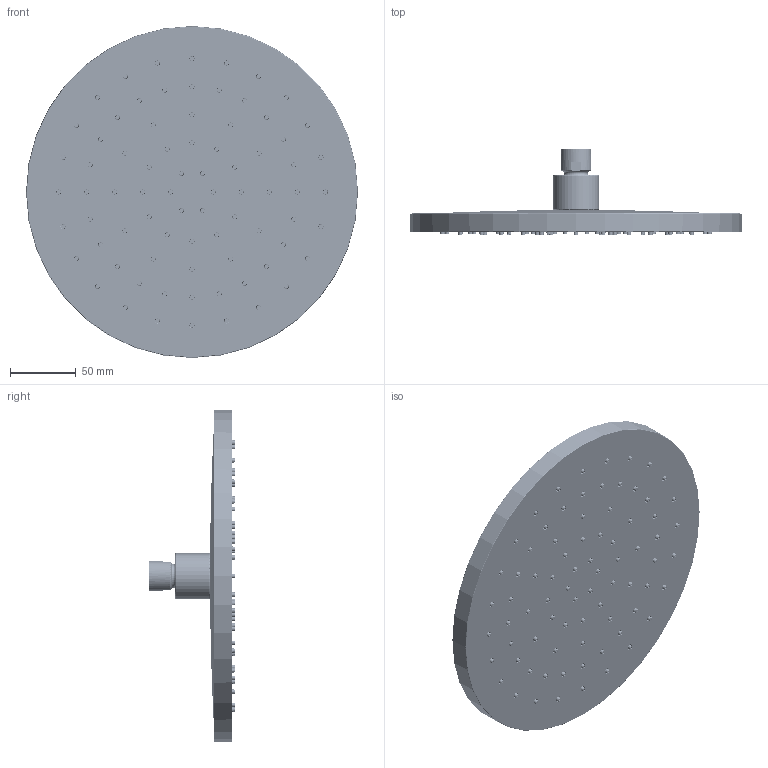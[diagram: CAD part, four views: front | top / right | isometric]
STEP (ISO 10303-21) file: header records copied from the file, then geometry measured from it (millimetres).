
FILE_DESCRIPTION((''),'2;1');
FILE_NAME('DIS_CC_8157_ASM','2025-10-07T09:34:41',('tecnico2'),(''),'CREO PARAMETRIC BY PTC INC, 2025010','CREO PARAMETRIC BY PTC INC, 2025010','');
FILE_SCHEMA(('AUTOMOTIVE_DESIGN { 1 0 10303 214 1 1 1 1 }'));
Length unit declared in the file: millimetre
Products named in the file (8): RU00017990000000; RU00018220000000; RU00018240000000; RU00018000000000; RU00018200000000; RU00018010000000; 8600081570000000_ASM; DIS_CC_8157_ASM
Assembly tree (7 placements, depth 3):
  DIS_CC_8157_ASM
    8600081570000000_ASM
      RU00017990000000
      RU00018220000000
      RU00018240000000
      RU00018000000000
      RU00018200000000
      RU00018010000000
Bounding box: 252.48 x 64.7 x 252.48 mm (x, y, z)
Volume: 312405.6 mm3; surface area: 349344.3 mm2
Topology: 90 solids, 116 shells, 3283 faces, 10107 edges, 7223 vertices
Faces by surface type: cone 1334, plane 888, torus 578, extrusion 270, cylinder 149, bspline 50, sphere 14
Entity records: 176679 total; most frequent: CARTESIAN_POINT 38526, DIRECTION 20757, ORIENTED_EDGE 19983, EDGE_CURVE 10078, PRESENTATION_STYLE_ASSIGNMENT 9577, AXIS2_PLACEMENT_3D 9006, STYLED_ITEM 7865, VERTEX_POINT 7220
